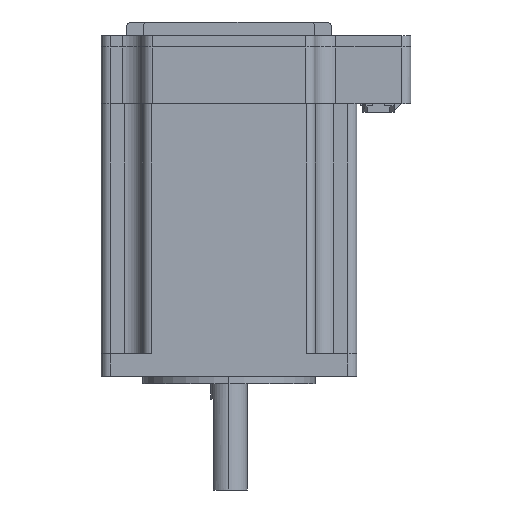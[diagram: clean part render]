
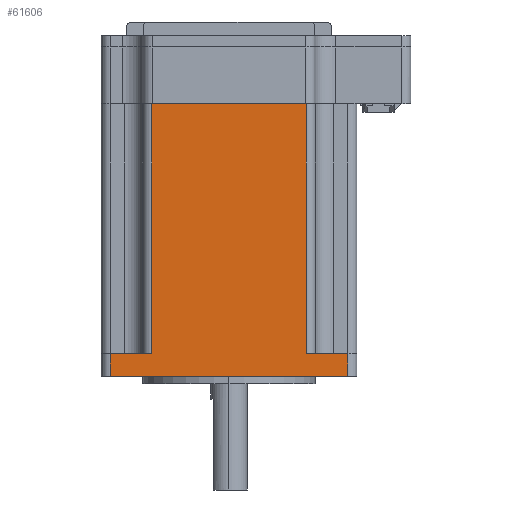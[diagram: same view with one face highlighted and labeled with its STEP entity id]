
A CAD part, left-side view. The second image highlights one B-rep face of the part: STEP entity #61606.
In plain terms, the highlighted planar face has unit normal (-1, 0, 0) as drawn and (1, 0, 0) by its records, which use the part's own axes.
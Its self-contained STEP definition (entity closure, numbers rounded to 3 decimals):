
#358 = VERTEX_POINT ( 'NONE', #66219 ) ;
#2250 = ORIENTED_EDGE ( 'NONE', *, *, #81319, .F. ) ;
#3702 = EDGE_CURVE ( 'NONE', #63871, #73081, #47717, .T. ) ;
#3801 = VECTOR ( 'NONE', #40208, 1000. ) ;
#4602 = EDGE_CURVE ( 'NONE', #45794, #59536, #15808, .T. ) ;
#5032 = DIRECTION ( 'NONE',  ( 0., 0., 1. ) ) ;
#5683 = CARTESIAN_POINT ( 'NONE',  ( 28.1, -26.1, 5. ) ) ;
#7928 = FACE_OUTER_BOUND ( 'NONE', #38684, .T. ) ;
#8391 = ORIENTED_EDGE ( 'NONE', *, *, #21285, .F. ) ;
#9893 = ORIENTED_EDGE ( 'NONE', *, *, #14895, .T. ) ;
#10640 = EDGE_CURVE ( 'NONE', #71158, #59536, #30462, .T. ) ;
#14895 = EDGE_CURVE ( 'NONE', #29618, #34764, #21362, .T. ) ;
#15808 = LINE ( 'NONE', #74544, #59124 ) ;
#18745 = CARTESIAN_POINT ( 'NONE',  ( 28.1, 26.1, 0. ) ) ;
#20481 = ORIENTED_EDGE ( 'NONE', *, *, #4602, .T. ) ;
#21285 = EDGE_CURVE ( 'NONE', #358, #71158, #75128, .T. ) ;
#21362 = LINE ( 'NONE', #55107, #22338 ) ;
#22181 = CARTESIAN_POINT ( 'NONE',  ( 28.1, -17., -55. ) ) ;
#22338 = VECTOR ( 'NONE', #70118, 1000. ) ;
#25328 = CARTESIAN_POINT ( 'NONE',  ( 28.1, -26.1, 5. ) ) ;
#25711 = DIRECTION ( 'NONE',  ( 0., 0., 1. ) ) ;
#29618 = VERTEX_POINT ( 'NONE', #91467 ) ;
#30462 = LINE ( 'NONE', #22181, #99220 ) ;
#33370 = DIRECTION ( 'NONE',  ( -1., 0., 0. ) ) ;
#33908 = CARTESIAN_POINT ( 'NONE',  ( 28.1, -26.1, 5. ) ) ;
#34764 = VERTEX_POINT ( 'NONE', #18745 ) ;
#38684 = EDGE_LOOP ( 'NONE', ( #20481, #63073, #8391, #49790, #9893, #2250, #96507, #92387 ) ) ;
#40208 = DIRECTION ( 'NONE',  ( 0., -1., 0. ) ) ;
#41837 = CARTESIAN_POINT ( 'NONE',  ( 28.1, -17., -55. ) ) ;
#42212 = PLANE ( 'NONE',  #62336 ) ;
#44539 = CARTESIAN_POINT ( 'NONE',  ( 28.1, -26.1, 5. ) ) ;
#44975 = CARTESIAN_POINT ( 'NONE',  ( 28.1, 26.1, 5. ) ) ;
#45794 = VERTEX_POINT ( 'NONE', #81226 ) ;
#46515 = EDGE_CURVE ( 'NONE', #63871, #45794, #51769, .T. ) ;
#47387 = DIRECTION ( 'NONE',  ( 0., 1., 0. ) ) ;
#47717 = LINE ( 'NONE', #5683, #67405 ) ;
#49790 = ORIENTED_EDGE ( 'NONE', *, *, #58844, .T. ) ;
#51769 = LINE ( 'NONE', #44539, #109014 ) ;
#53828 = LINE ( 'NONE', #44975, #99719 ) ;
#54533 = VECTOR ( 'NONE', #25711, 1000. ) ;
#55107 = CARTESIAN_POINT ( 'NONE',  ( 28.1, -26.1, 0. ) ) ;
#58844 = EDGE_CURVE ( 'NONE', #358, #29618, #67804, .T. ) ;
#59124 = VECTOR ( 'NONE', #47387, 1000. ) ;
#59536 = VERTEX_POINT ( 'NONE', #68649 ) ;
#61606 = ADVANCED_FACE ( 'NONE', ( #7928 ), #42212, .F. ) ;
#62336 = AXIS2_PLACEMENT_3D ( 'NONE', #33908, #33370, #76057 ) ;
#63073 = ORIENTED_EDGE ( 'NONE', *, *, #10640, .F. ) ;
#63871 = VERTEX_POINT ( 'NONE', #25328 ) ;
#66219 = CARTESIAN_POINT ( 'NONE',  ( 28.1, 17., -55. ) ) ;
#67405 = VECTOR ( 'NONE', #73800, 1000. ) ;
#67804 = LINE ( 'NONE', #101755, #54533 ) ;
#68649 = CARTESIAN_POINT ( 'NONE',  ( 28.1, -17., 0. ) ) ;
#70118 = DIRECTION ( 'NONE',  ( 0., 1., 0. ) ) ;
#71158 = VERTEX_POINT ( 'NONE', #92658 ) ;
#73081 = VERTEX_POINT ( 'NONE', #78787 ) ;
#73800 = DIRECTION ( 'NONE',  ( 0., 1., 0. ) ) ;
#74544 = CARTESIAN_POINT ( 'NONE',  ( 28.1, -26.1, 0. ) ) ;
#75128 = LINE ( 'NONE', #41837, #3801 ) ;
#76057 = DIRECTION ( 'NONE',  ( 0., 0., 1. ) ) ;
#78787 = CARTESIAN_POINT ( 'NONE',  ( 28.1, 26.1, 5. ) ) ;
#78858 = DIRECTION ( 'NONE',  ( 0., 0., -1. ) ) ;
#81226 = CARTESIAN_POINT ( 'NONE',  ( 28.1, -26.1, 0. ) ) ;
#81319 = EDGE_CURVE ( 'NONE', #73081, #34764, #53828, .T. ) ;
#91467 = CARTESIAN_POINT ( 'NONE',  ( 28.1, 17., 0. ) ) ;
#92387 = ORIENTED_EDGE ( 'NONE', *, *, #46515, .T. ) ;
#92658 = CARTESIAN_POINT ( 'NONE',  ( 28.1, -17., -55. ) ) ;
#96507 = ORIENTED_EDGE ( 'NONE', *, *, #3702, .F. ) ;
#99220 = VECTOR ( 'NONE', #5032, 1000. ) ;
#99719 = VECTOR ( 'NONE', #78858, 1000. ) ;
#101755 = CARTESIAN_POINT ( 'NONE',  ( 28.1, 17., -55. ) ) ;
#103410 = DIRECTION ( 'NONE',  ( 0., 0., -1. ) ) ;
#109014 = VECTOR ( 'NONE', #103410, 1000. ) ;
